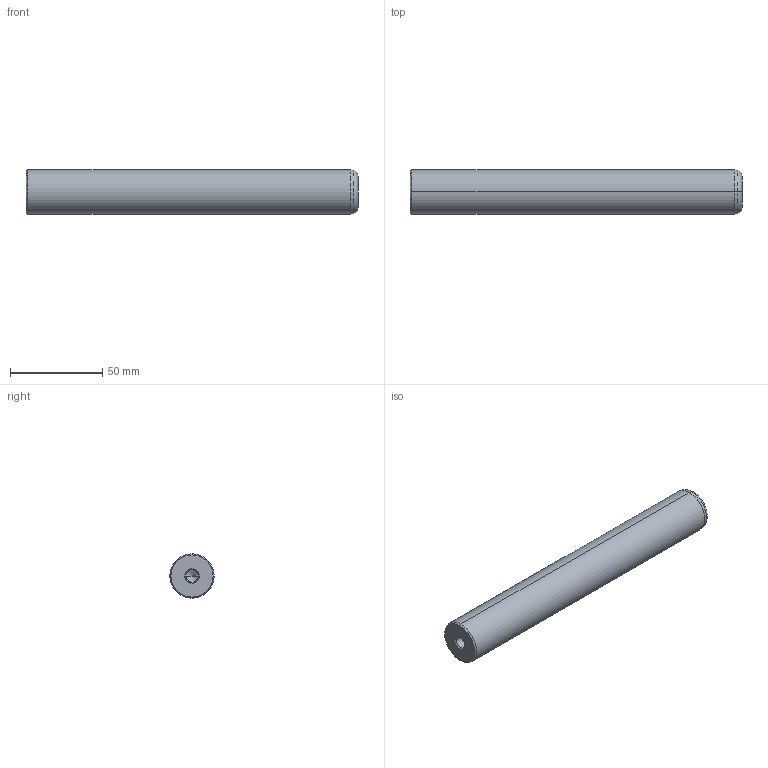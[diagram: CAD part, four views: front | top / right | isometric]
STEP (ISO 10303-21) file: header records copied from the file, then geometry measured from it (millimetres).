
FILE_DESCRIPTION(('CATIA V5 STEP Exchange'),'2;1');
FILE_NAME('C:\Users\Utente\Desktop\IO LAVORO\3D X SITO CF\X SITO\720\720-24x180.stp','2021-01-01T12:52:27+00:00',('none'),('none'),'CATIA Version 5 Release 20 GA (IN-10)','CATIA V5 STEP AP203','none');
FILE_SCHEMA(('CONFIG_CONTROL_DESIGN'));
Length unit declared in the file: millimetre
Products named in the file (1): 720-24x180
Bounding box: 180 x 24 x 24 mm (x, y, z)
Volume: 79464.2 mm3; surface area: 15311.7 mm2
Topology: 1 solids, 1 shells, 22 faces, 56 edges, 34 vertices
Faces by surface type: cone 12, cylinder 6, plane 2, torus 2
Entity records: 755 total; most frequent: CARTESIAN_POINT 216, ORIENTED_EDGE 104, DIRECTION 89, EDGE_CURVE 52, AXIS2_PLACEMENT_3D 50, VERTEX_POINT 34, CIRCLE 27, EDGE_LOOP 24
